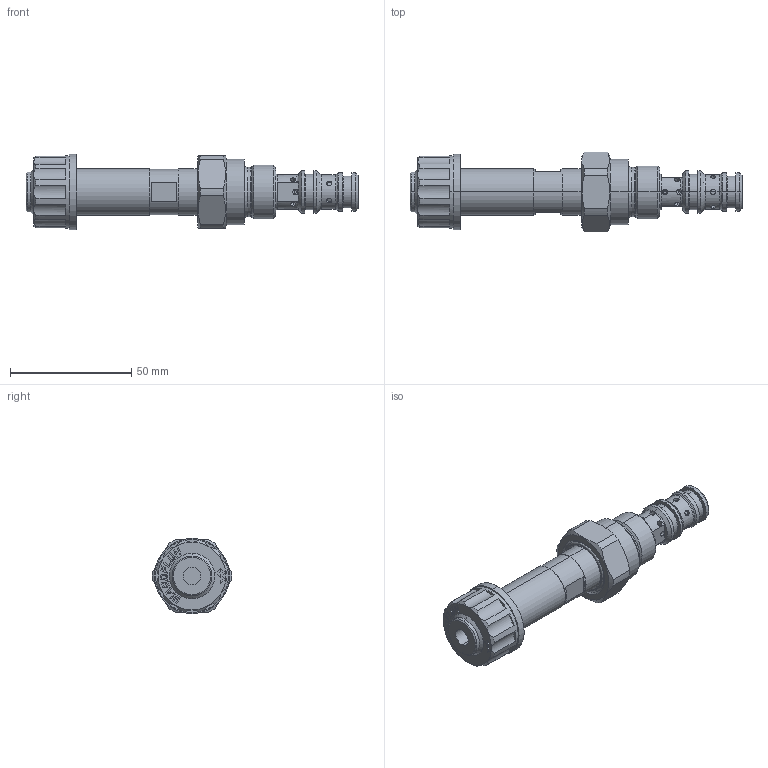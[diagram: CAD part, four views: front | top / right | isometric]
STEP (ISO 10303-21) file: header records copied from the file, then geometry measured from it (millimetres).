
FILE_DESCRIPTION (( 'STEP AP214' ), '1' );
FILE_NAME ('MPPPU10-X5.STEP', '2017-09-27T14:17:24', ( '' ), ( '' ), 'SwSTEP 2.0', 'SolidWorks 2016', '' );
FILE_SCHEMA (( 'AUTOMOTIVE_DESIGN' ));
Length unit declared in the file: millimetre
Products named in the file (1): MPPPU10-X5
Bounding box: 137 x 32.98 x 31 mm (x, y, z)
Volume: 49674.7 mm3; surface area: 13488.6 mm2
Topology: 1 solids, 3 shells, 454 faces, 1068 edges, 669 vertices
Faces by surface type: plane 165, cylinder 151, cone 80, bspline 32, torus 26
Entity records: 19765 total; most frequent: CARTESIAN_POINT 4814, ORIENTED_EDGE 2136, DIRECTION 2106, EDGE_CURVE 1068, AXIS2_PLACEMENT_3D 787, VERTEX_POINT 669, LINE 532, VECTOR 532
